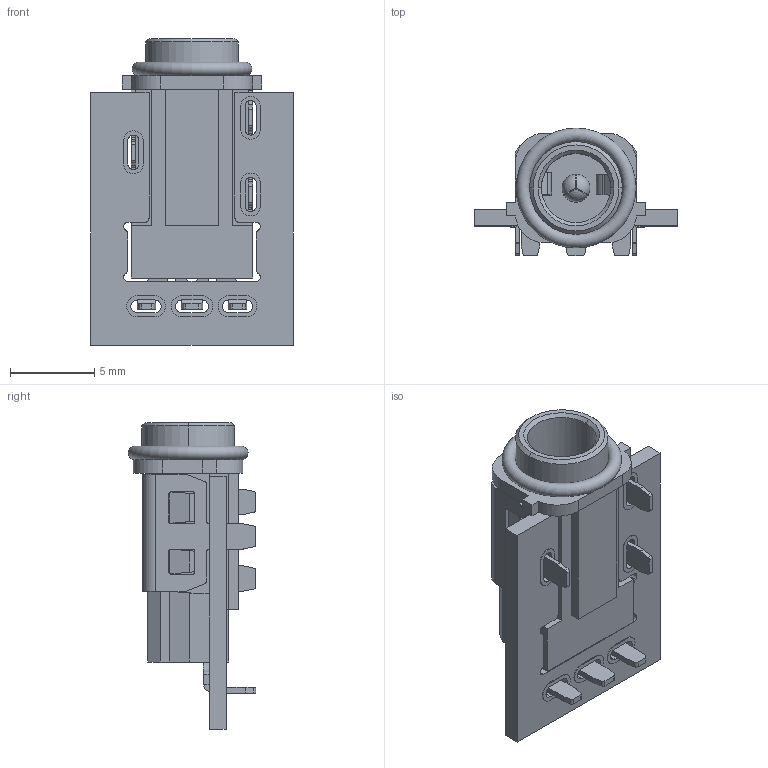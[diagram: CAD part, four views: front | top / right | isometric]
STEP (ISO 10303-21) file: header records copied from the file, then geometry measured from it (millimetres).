
FILE_DESCRIPTION(/* description */ (''),/* implementation_level */ '2;1');
FILE_NAME(/* name */ 'DC40A002-17D1271-A 客户图 20251223.stp',/* time_stamp */ '2025-12-23T16:04:35+08:00',/* author */ (''),/* organization */ (''),/* preprocessor_version */ 'ST-DEVELOPER v16.7',/* originating_system */ 'SIEMENS PLM Software NX 12.0',/* authorisation */ '');
FILE_SCHEMA (('AUTOMOTIVE_DESIGN { 1 0 10303 214 3 1 1 1 }'));
Length unit declared in the file: millimetre
Products named in the file (1): DC40A002-17D1271-A 客户图 20251223_stp
Bounding box: 12 x 7.55 x 18.2 mm (x, y, z)
Volume: 472.8 mm3; surface area: 1215.6 mm2
Topology: 3 solids, 3 shells, 402 faces, 1140 edges, 755 vertices
Faces by surface type: plane 254, cylinder 133, sphere 8, cone 5, extrusion 1, torus 1
Entity records: 13311 total; most frequent: CARTESIAN_POINT 2542, ORIENTED_EDGE 2276, DIRECTION 2221, EDGE_CURVE 1138, VECTOR 803, LINE 802, VERTEX_POINT 755, AXIS2_PLACEMENT_3D 709
